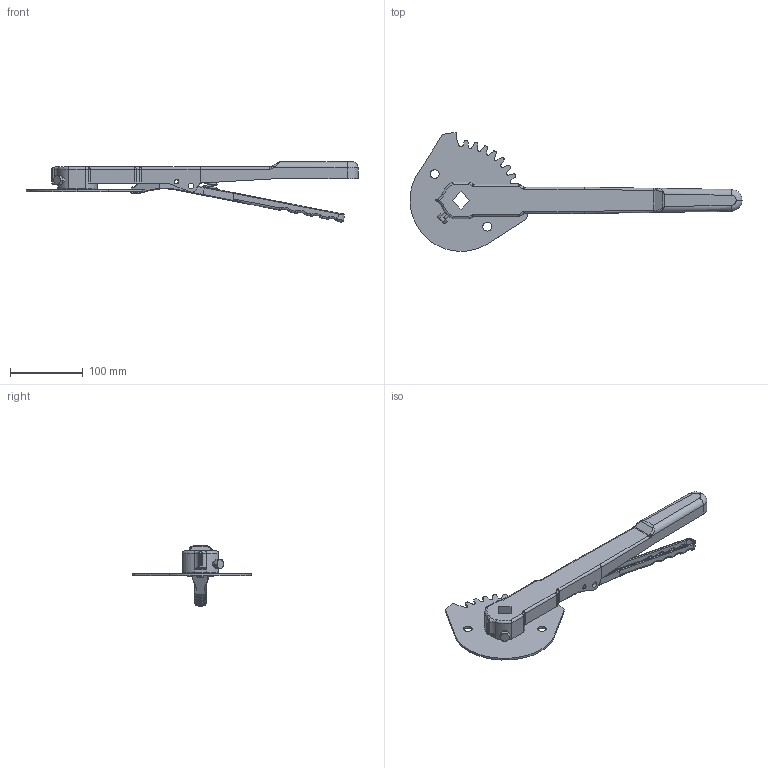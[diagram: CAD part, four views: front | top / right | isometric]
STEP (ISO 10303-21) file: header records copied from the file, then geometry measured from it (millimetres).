
FILE_DESCRIPTION (( 'STEP AP203' ), '1' );
FILE_NAME ('8※忒梟.STEP', '2026-03-04T04:29:01', ( '' ), ( '' ), 'SwSTEP 2.0', 'SolidWorks 2018', '' );
FILE_SCHEMA (( 'CONFIG_CONTROL_DESIGN' ));
Length unit declared in the file: millimetre
Products named in the file (7): 新型玛钢手柄主手柄-DN200-DN300-立方孔22-YH-D200-300-07SZ-03; 粟俶埴翐种 6x35-GBT 879.2; 鞠褒芛蹟邡 M8X25; 8※忒梟; 新型玛钢手柄副手柄-DN200-DN300-YH-D200-300-07SF-02; 粟銅; 新型玛钢手柄齿盘-DN200-DN300
Assembly tree (6 placements, depth 2):
  8※忒梟
    新型玛钢手柄主手柄-DN200-DN300-立方孔22-YH-D200-300-07SZ-03
    新型玛钢手柄副手柄-DN200-DN300-YH-D200-300-07SF-02
    粟銅
    粟俶埴翐种 6x35-GBT 879.2
    新型玛钢手柄齿盘-DN200-DN300
    鞠褒芛蹟邡 M8X25
Bounding box: 455.47 x 163.06 x 82.61 mm (x, y, z)
Volume: 230949.5 mm3; surface area: 127311.6 mm2
Topology: 7 solids, 7 shells, 586 faces, 1453 edges, 869 vertices
Faces by surface type: cylinder 275, plane 147, torus 89, bspline 39, sphere 20, cone 16
Entity records: 22019 total; most frequent: CARTESIAN_POINT 7593, DIRECTION 3000, ORIENTED_EDGE 2870, EDGE_CURVE 1435, AXIS2_PLACEMENT_3D 1174, VERTEX_POINT 867, LINE 652, VECTOR 652
